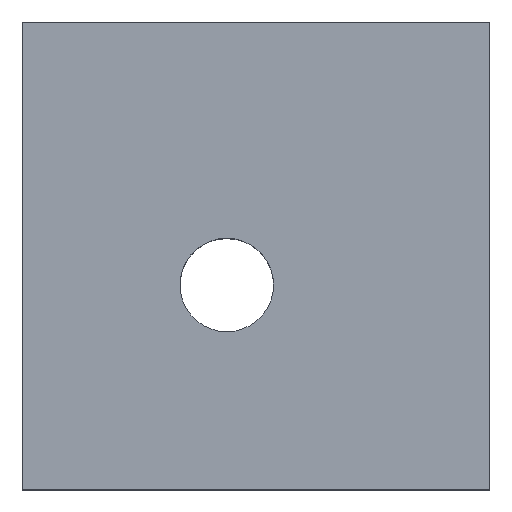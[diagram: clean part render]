
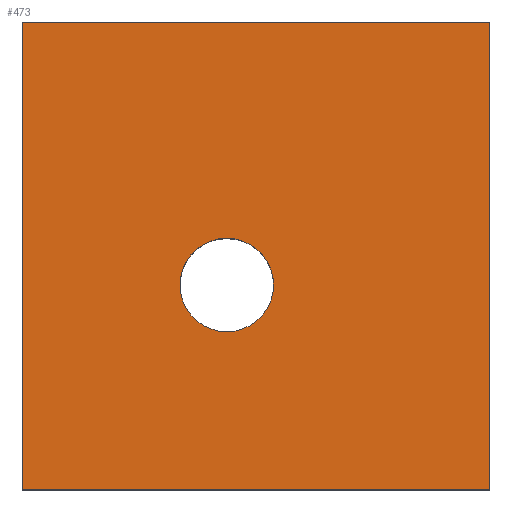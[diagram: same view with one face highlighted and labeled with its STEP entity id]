
A CAD part, top view. The second image highlights one B-rep face of the part: STEP entity #473.
In plain terms, the highlighted planar face has unit normal (0, 0, 1).
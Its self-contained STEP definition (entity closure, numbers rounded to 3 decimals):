
#20 = ORIENTED_EDGE ( 'NONE', *, *, #427, .F. ) ;
#26 = ORIENTED_EDGE ( 'NONE', *, *, #574, .F. ) ;
#43 = CARTESIAN_POINT ( 'NONE',  ( 0., 8., 0. ) ) ;
#47 = DIRECTION ( 'NONE',  ( -1., 0., 0. ) ) ;
#49 = EDGE_CURVE ( 'NONE', #365, #457, #529, .T. ) ;
#61 = VERTEX_POINT ( 'NONE', #588 ) ;
#64 = AXIS2_PLACEMENT_3D ( 'NONE', #489, #520, #47 ) ;
#92 = CARTESIAN_POINT ( 'NONE',  ( 3.5, 3.5, 0. ) ) ;
#95 = VECTOR ( 'NONE', #621, 1000. ) ;
#102 = LINE ( 'NONE', #620, #95 ) ;
#106 = VECTOR ( 'NONE', #294, 1000. ) ;
#112 = LINE ( 'NONE', #324, #106 ) ;
#132 = FACE_BOUND ( 'NONE', #187, .T. ) ;
#142 = FACE_OUTER_BOUND ( 'NONE', #233, .T. ) ;
#151 = EDGE_CURVE ( 'NONE', #61, #235, #376, .T. ) ;
#154 = VECTOR ( 'NONE', #287, 1000. ) ;
#160 = EDGE_CURVE ( 'NONE', #235, #61, #178, .T. ) ;
#161 = LINE ( 'NONE', #371, #154 ) ;
#178 = CIRCLE ( 'NONE', #618, 0.8 ) ;
#187 = EDGE_LOOP ( 'NONE', ( #496, #252 ) ) ;
#233 = EDGE_LOOP ( 'NONE', ( #470, #26, #20, #539 ) ) ;
#235 = VERTEX_POINT ( 'NONE', #305 ) ;
#252 = ORIENTED_EDGE ( 'NONE', *, *, #151, .T. ) ;
#263 = VERTEX_POINT ( 'NONE', #43 ) ;
#279 = PLANE ( 'NONE',  #633 ) ;
#287 = DIRECTION ( 'NONE',  ( 1., 0., 0. ) ) ;
#294 = DIRECTION ( 'NONE',  ( 0., -1., 0. ) ) ;
#305 = CARTESIAN_POINT ( 'NONE',  ( 2.7, 3.5, 0. ) ) ;
#324 = CARTESIAN_POINT ( 'NONE',  ( 8., 8., 0. ) ) ;
#339 = CARTESIAN_POINT ( 'NONE',  ( 8., 8., 0. ) ) ;
#349 = DIRECTION ( 'NONE',  ( 0., 0., -1. ) ) ;
#365 = VERTEX_POINT ( 'NONE', #533 ) ;
#371 = CARTESIAN_POINT ( 'NONE',  ( 8., 8., 0. ) ) ;
#376 = CIRCLE ( 'NONE', #64, 0.8 ) ;
#427 = EDGE_CURVE ( 'NONE', #263, #458, #161, .T. ) ;
#430 = DIRECTION ( 'NONE',  ( -1., 0., 0. ) ) ;
#434 = DIRECTION ( 'NONE',  ( -1., 0., 0. ) ) ;
#439 = CARTESIAN_POINT ( 'NONE',  ( 8., 8., 0. ) ) ;
#457 = VERTEX_POINT ( 'NONE', #607 ) ;
#458 = VERTEX_POINT ( 'NONE', #339 ) ;
#470 = ORIENTED_EDGE ( 'NONE', *, *, #49, .T. ) ;
#473 = ADVANCED_FACE ( 'NONE', ( #132, #142 ), #279, .F. ) ;
#482 = DIRECTION ( 'NONE',  ( 0., 0., -1. ) ) ;
#489 = CARTESIAN_POINT ( 'NONE',  ( 3.5, 3.5, 0. ) ) ;
#496 = ORIENTED_EDGE ( 'NONE', *, *, #160, .T. ) ;
#520 = DIRECTION ( 'NONE',  ( 0., 0., -1. ) ) ;
#525 = VECTOR ( 'NONE', #613, 1000. ) ;
#529 = LINE ( 'NONE', #605, #525 ) ;
#533 = CARTESIAN_POINT ( 'NONE',  ( 0., 0., 0. ) ) ;
#539 = ORIENTED_EDGE ( 'NONE', *, *, #610, .T. ) ;
#574 = EDGE_CURVE ( 'NONE', #458, #457, #112, .T. ) ;
#588 = CARTESIAN_POINT ( 'NONE',  ( 4.3, 3.5, 0. ) ) ;
#605 = CARTESIAN_POINT ( 'NONE',  ( 8., 0., 0. ) ) ;
#607 = CARTESIAN_POINT ( 'NONE',  ( 8., 0., 0. ) ) ;
#610 = EDGE_CURVE ( 'NONE', #263, #365, #102, .T. ) ;
#613 = DIRECTION ( 'NONE',  ( 1., 0., 0. ) ) ;
#618 = AXIS2_PLACEMENT_3D ( 'NONE', #92, #349, #430 ) ;
#620 = CARTESIAN_POINT ( 'NONE',  ( 0., 8., 0. ) ) ;
#621 = DIRECTION ( 'NONE',  ( 0., -1., 0. ) ) ;
#633 = AXIS2_PLACEMENT_3D ( 'NONE', #439, #482, #434 ) ;
